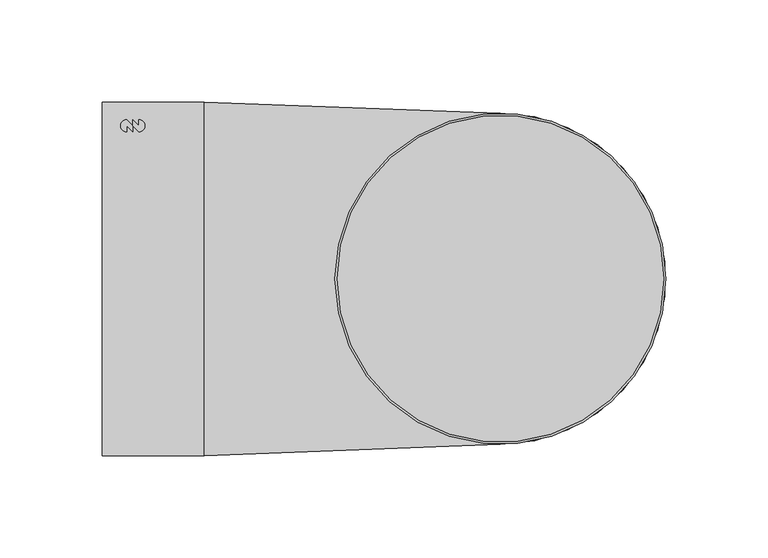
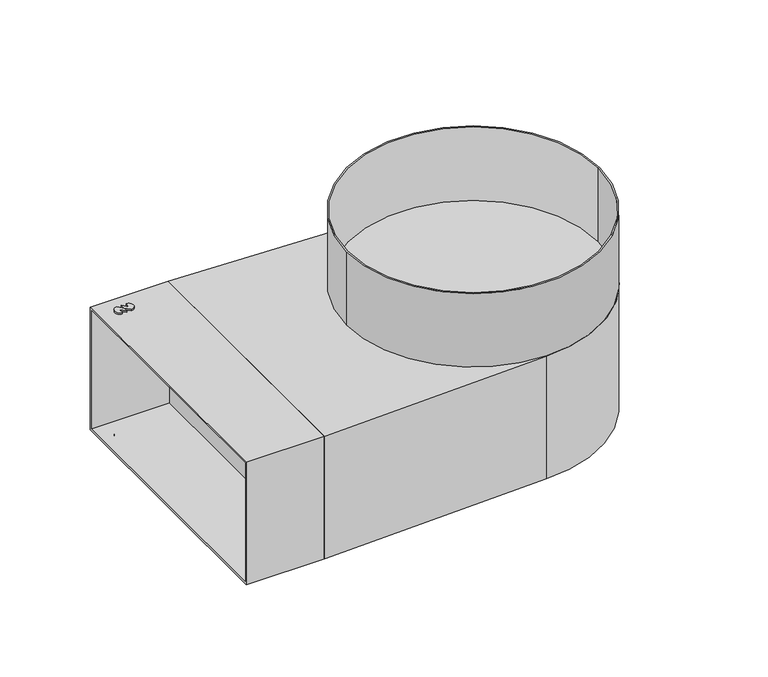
"""IFC4 building model written with IfcOpenShell, lengths in millimetres: duct fitting geometry, NLRS_57_DUF_UN_instortkanaal-rechthoekig-naar-rond-lepe-hoek_LT_velu : Centrisch."""

from ifc_helpers import new_model, si_unit, point, frame, frame_2d, origin, place, context, project, spatial, polyline, circle_curve, trimmed, segment, composite_curve, outline, extrude, source, transform, mapped, element, save


def duct_fitting_2dd9eabd(model_context):
    return source(origin(), model_context, "Body", "SweptSolid", [
        extrude(outline(composite_curve([segment(trimmed(circle_curve(frame_2d((-32.0, 75.0)), 3.0), [point((-32.0, 78.0))], [point((-32.0, 72.0))], False, "CARTESIAN"), True, "CONTINUOUS"), segment(polyline([(-32.0, 72.0), (-35.0, 75.0), (-35.0, 78.0), (-32.0, 75.0), (-32.0, 78.0)]), True, "CONTINUOUS")], self_intersect=False)), frame((0.0, 0.0, -42.5), z_axis=(0.0, 0.0, 1.0), x_axis=(1.0, 0.0, 0.0)), (0.0, 0.0, 1.0), 1.0),
        extrude(outline(composite_curve([segment(trimmed(circle_curve(frame_2d((-38.0, 75.0)), 3.0), [point((-38.0, 72.0))], [point((-38.0, 78.0))], False, "CARTESIAN"), True, "CONTINUOUS"), segment(polyline([(-38.0, 78.0), (-35.0, 75.0), (-35.0, 72.0), (-38.0, 75.0), (-38.0, 72.0)]), True, "CONTINUOUS")], self_intersect=False)), frame((0.0, 0.0, -42.5), z_axis=(0.0, 0.0, 1.0), x_axis=(1.0, 0.0, 0.0)), (0.0, 0.0, 1.0), 1.0),
        extrude(outline(composite_curve([segment(trimmed(circle_curve(frame_2d((-32.0, 75.0)), 3.0), [point((-32.0, 78.0))], [point((-32.0, 72.0))], False, "CARTESIAN"), True, "CONTINUOUS"), segment(polyline([(-32.0, 72.0), (-35.0, 75.0), (-35.0, 78.0), (-32.0, 75.0), (-32.0, 78.0)]), True, "CONTINUOUS")], self_intersect=False)), frame((0.0, 0.0, 41.5), z_axis=(0.0, 0.0, 1.0), x_axis=(1.0, 0.0, 0.0)), (0.0, 0.0, 1.0), 1.0),
        extrude(outline(composite_curve([segment(trimmed(circle_curve(frame_2d((-38.0, 75.0)), 3.0), [point((-38.0, 72.0))], [point((-38.0, 78.0))], False, "CARTESIAN"), True, "CONTINUOUS"), segment(polyline([(-38.0, 78.0), (-35.0, 75.0), (-35.0, 72.0), (-38.0, 75.0), (-38.0, 72.0)]), True, "CONTINUOUS")], self_intersect=False)), frame((0.0, 0.0, 41.5), z_axis=(0.0, 0.0, 1.0), x_axis=(1.0, 0.0, 0.0)), (0.0, 0.0, 1.0), 1.0),
        extrude(outline(composite_curve([segment(polyline([(0.0, -86.5), (0.0, 86.5), (145.0, 81.0)]), True, "CONTINUOUS"), segment(trimmed(circle_curve(frame_2d((145.0, 0.0)), 81.0), [point((145.0, 81.0))], [point((145.0, -81.0))], False, "CARTESIAN"), True, "CONTINUOUS"), segment(polyline([(145.0, -81.0), (0.0, -86.5)]), True, "CONTINUOUS")], self_intersect=False)), frame((0.0, 0.0, -41.5), z_axis=(0.0, 0.0, 1.0), x_axis=(1.0, 0.0, 0.0)), (0.0, 0.0, 1.0), 83.0),
        extrude(outline(composite_curve([segment(trimmed(circle_curve(frame_2d((145.0, 0.0)), 81.0), [point((64.0, 0.0))], [point((226.0, 0.0))], False, "CARTESIAN"), True, "CONTINUOUS"), segment(trimmed(circle_curve(frame_2d((145.0, 0.0)), 81.0), [point((226.0, 0.0))], [point((64.0, 0.0))], False, "CARTESIAN"), True, "CONTINUOUS")], self_intersect=False), holes=[composite_curve([segment(trimmed(circle_curve(frame_2d((145.0, 0.0)), 80.0), [point((65.0, 0.0))], [point((225.0, 0.0))], True, "CARTESIAN"), True, "CONTINUOUS"), segment(trimmed(circle_curve(frame_2d((145.0, 0.0)), 80.0), [point((225.0, 0.0))], [point((65.0, 0.0))], True, "CARTESIAN"), True, "CONTINUOUS")], self_intersect=False)]), frame((0.0, 0.0, 41.5), z_axis=(0.0, 0.0, 1.0), x_axis=(1.0, 0.0, 0.0)), (0.0, 0.0, 1.0), 50.0),
        extrude(outline(polyline([(-86.5, 41.5), (86.5, 41.5), (86.5, -41.5), (-86.5, -41.5), (-86.5, 41.5)]), holes=[polyline([(-85.0, 40.0), (-85.0, -40.0), (85.0, -40.0), (85.0, 40.0), (-85.0, 40.0)])]), frame((-50.0, 0.0, 0.0), z_axis=(1.0, 0.0, 0.0), x_axis=(0.0, 1.0, 0.0)), (0.0, 0.0, 1.0), 50.0),
    ])


if __name__ == "__main__":
    model = new_model("IFC4")
    model_context = context("Model", 3, world=origin())
    ifc_project = project(units=[si_unit("LENGTHUNIT", "METRE", prefix="MILLI")], contexts=[model_context])
    site = spatial("IfcSite", under=ifc_project)
    building = spatial("IfcBuilding", under=site)
    placement = place(None, origin())
    duct_fitting_shape = duct_fitting_2dd9eabd(model_context)
    element("IfcDuctFitting", 1, ObjectType="NLRS_57_DUF_UN_instortkanaal-rechthoekig-naar-rond-lepe-hoek_LT_velu : Centrisch", at=placement, inside=building, context=model_context, shape_type="MappedRepresentation", body=[
        mapped(duct_fitting_shape, transform((0.0, 0.0, 0.0), x_axis=(1.0, 0.0, 0.0), y_axis=(0.0, 1.0, 0.0), z_axis=(0.0, 0.0, 1.0))),
    ])
    save(model, "model.ifc")
